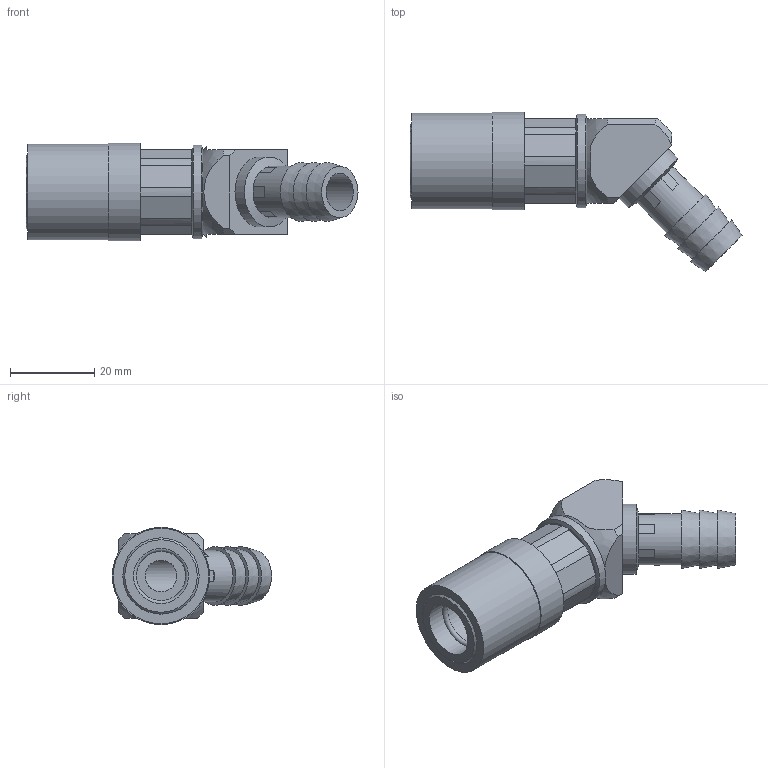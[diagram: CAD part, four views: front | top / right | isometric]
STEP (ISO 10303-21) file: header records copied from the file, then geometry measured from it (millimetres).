
FILE_DESCRIPTION(/* description */ ('STEP AP214'),/* implementation_level */ '2;1');
FILE_NAME(/* name */ 'SK311',/* time_stamp */ '2024-12-19T09:33:19+01:00',/* author */ ('License CC BY-ND 4.0'),/* organization */ ('CADENAS'),/* preprocessor_version */ 'ST-DEVELOPER v19.3',/* originating_system */ 'PARTsolutions',/* authorisation */ ' ');
FILE_SCHEMA (('AUTOMOTIVE_DESIGN {1 0 10303 214 3 1 1}'));
Length unit declared in the file: millimetre
Products named in the file (1): SK311
Bounding box: 78.69 x 37.76 x 23.05 mm (x, y, z)
Volume: 19535 mm3; surface area: 8647.9 mm2
Topology: 1 solids, 1 shells, 88 faces, 217 edges, 140 vertices
Faces by surface type: plane 66, cylinder 11, cone 7, sphere 3, torus 1
Full cylindrical faces by diameter (mm): 7.518 x1, 9 x1, 12.2 x1, 13 x2, 16.581 x1, 20.066 x1, 22.073 x1, 22.6 x1, 23.052 x1
Entity records: 2523 total; most frequent: CARTESIAN_POINT 477, DIRECTION 444, ORIENTED_EDGE 382, EDGE_CURVE 191, AXIS2_PLACEMENT_3D 182, VERTEX_POINT 134, EDGE_LOOP 117, FACE_BOUND 117
